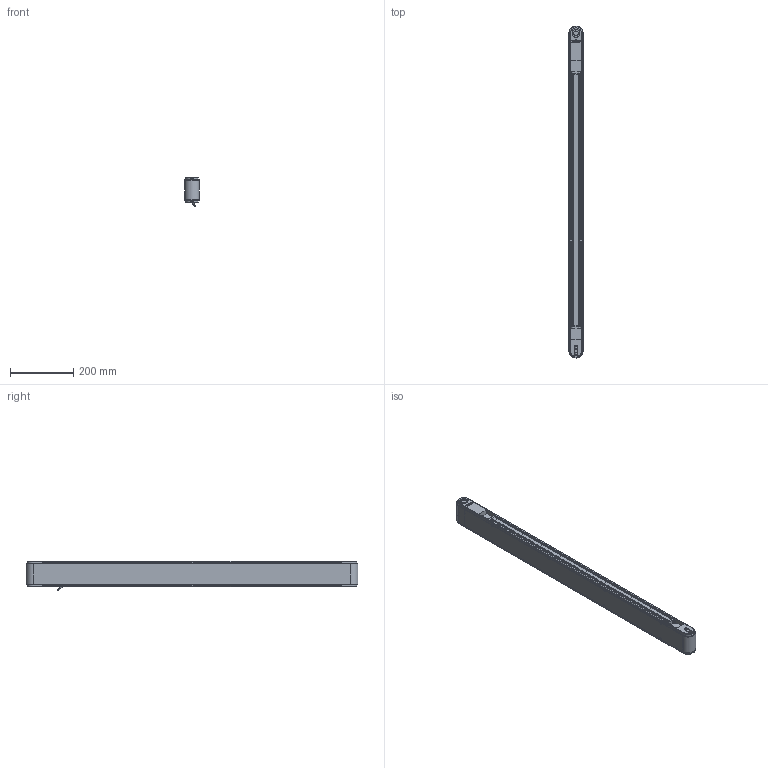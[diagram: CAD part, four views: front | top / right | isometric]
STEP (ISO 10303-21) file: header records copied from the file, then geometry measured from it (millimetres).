
FILE_DESCRIPTION(/* description */ (''),/* implementation_level */ '2;1');
FILE_NAME(/* name */ 'G:\DATEN\CAD\Förderband\Marketing\3D-Modelle (Standard)\FR-40-80\FR-40-80-1000-K.stp',/* time_stamp */ '2019-05-08T08:19:57+02:00',/* author */ ('melanie.ochs'),/* organization */ (''),/* preprocessor_version */ 'ST-DEVELOPER v17',/* originating_system */ 'Autodesk Inventor 2019',/* authorisation */ '');
FILE_SCHEMA (('CONFIG_CONTROL_DESIGN'));
Length unit declared in the file: centimetre
Products named in the file (1): FR-40-80-1000-K
Bounding box: 46.6 x 1046.6 x 92.71 mm (x, y, z)
Volume: 1473450 mm3; surface area: 829519.2 mm2
Topology: 1 solids, 25 shells, 1029 faces, 2813 edges, 1876 vertices
Faces by surface type: plane 529, cylinder 283, bspline 122, cone 65, torus 30
Full cylindrical faces by diameter (mm): 1 x6, 4 x6, 4.3 x4, 4.64 x2, 4.917 x1, 5 x11, 5.5 x8, 6 x4, 6.773 x1, 8 x4, 8.3 x8, 8.5 x8, 8.773 x1, 10 x1, 11 x1, 12 x3, 15 x4, 20 x2, 25 x2, 28 x4
Entity records: 35163 total; most frequent: CARTESIAN_POINT 8336, ORIENTED_EDGE 5606, DIRECTION 5080, EDGE_CURVE 2803, VERTEX_POINT 1876, AXIS2_PLACEMENT_3D 1764, LINE 1552, VECTOR 1552
